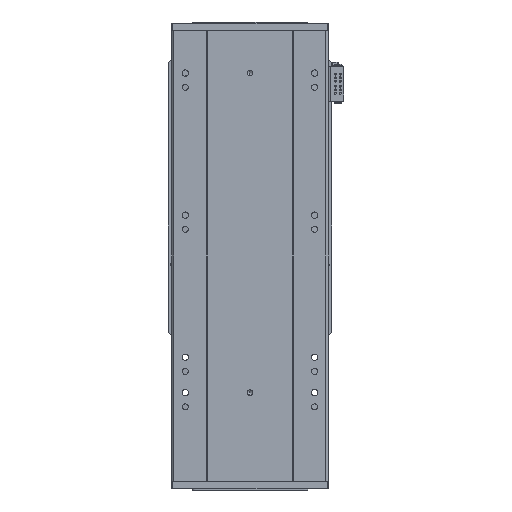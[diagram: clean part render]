
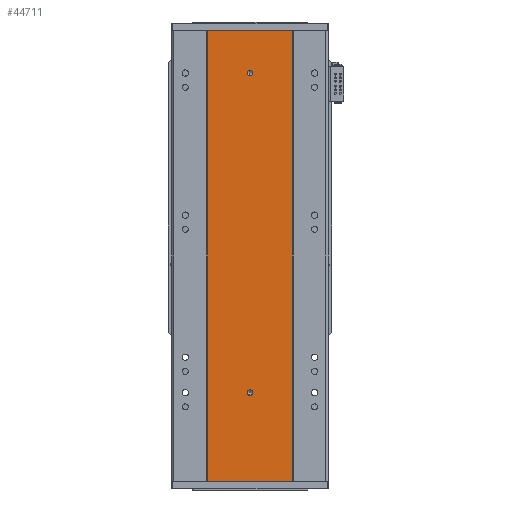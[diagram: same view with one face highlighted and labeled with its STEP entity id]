
A CAD part, front view. The second image highlights one B-rep face of the part: STEP entity #44711.
In plain terms, the highlighted planar face has unit normal (0, -1, 0).
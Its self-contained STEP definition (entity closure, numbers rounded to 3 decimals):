
#407 = CARTESIAN_POINT ( 'NONE',  ( -60., 0., 635. ) ) ;
#1001 = CARTESIAN_POINT ( 'NONE',  ( 0., 0., 575. ) ) ;
#1230 = DIRECTION ( 'NONE',  ( 0., 0., -1. ) ) ;
#1729 = EDGE_CURVE ( 'NONE', #53522, #18051, #33678, .T. ) ;
#3106 = ORIENTED_EDGE ( 'NONE', *, *, #12484, .F. ) ;
#3229 = CARTESIAN_POINT ( 'NONE',  ( 60., 0., 635. ) ) ;
#5102 = CARTESIAN_POINT ( 'NONE',  ( 0., 0., 125. ) ) ;
#5315 = LINE ( 'NONE', #49760, #45857 ) ;
#5802 = CARTESIAN_POINT ( 'NONE',  ( 60., 0., 0. ) ) ;
#6453 = DIRECTION ( 'NONE',  ( 0., -1., 0. ) ) ;
#7175 = CARTESIAN_POINT ( 'NONE',  ( -60., 0., 635. ) ) ;
#8689 = CARTESIAN_POINT ( 'NONE',  ( -60., 0., 0. ) ) ;
#9915 = LINE ( 'NONE', #39621, #14005 ) ;
#10207 = EDGE_CURVE ( 'NONE', #51522, #50047, #9915, .T. ) ;
#10794 = CARTESIAN_POINT ( 'NONE',  ( 0., 0., 129. ) ) ;
#11730 = DIRECTION ( 'NONE',  ( 1., 0., 0. ) ) ;
#12459 = VERTEX_POINT ( 'NONE', #10794 ) ;
#12484 = EDGE_CURVE ( 'NONE', #12459, #21905, #43269, .T. ) ;
#13986 = DIRECTION ( 'NONE',  ( 0., 0., -1. ) ) ;
#14005 = VECTOR ( 'NONE', #1230, 1000. ) ;
#14988 = DIRECTION ( 'NONE',  ( 0., 0., -1. ) ) ;
#15624 = ORIENTED_EDGE ( 'NONE', *, *, #37076, .T. ) ;
#15727 = CIRCLE ( 'NONE', #44607, 4. ) ;
#16221 = AXIS2_PLACEMENT_3D ( 'NONE', #45937, #6453, #50101 ) ;
#17928 = DIRECTION ( 'NONE',  ( 0., -1., 0. ) ) ;
#18051 = VERTEX_POINT ( 'NONE', #30495 ) ;
#18308 = EDGE_LOOP ( 'NONE', ( #23348, #39420 ) ) ;
#21000 = CIRCLE ( 'NONE', #16221, 4. ) ;
#21163 = DIRECTION ( 'NONE',  ( 0., 0., 1. ) ) ;
#21905 = VERTEX_POINT ( 'NONE', #49296 ) ;
#23117 = EDGE_LOOP ( 'NONE', ( #15624, #49214, #32280, #54600 ) ) ;
#23304 = DIRECTION ( 'NONE',  ( 0., -1., 0. ) ) ;
#23348 = ORIENTED_EDGE ( 'NONE', *, *, #31295, .F. ) ;
#23848 = VERTEX_POINT ( 'NONE', #3229 ) ;
#26252 = EDGE_CURVE ( 'NONE', #21905, #12459, #15727, .T. ) ;
#26801 = FACE_BOUND ( 'NONE', #18308, .T. ) ;
#27537 = LINE ( 'NONE', #7175, #28871 ) ;
#28871 = VECTOR ( 'NONE', #11730, 1000. ) ;
#29418 = DIRECTION ( 'NONE',  ( 0., -1., 0. ) ) ;
#29453 = LINE ( 'NONE', #31610, #46353 ) ;
#30495 = CARTESIAN_POINT ( 'NONE',  ( 0., 0., 571. ) ) ;
#31067 = AXIS2_PLACEMENT_3D ( 'NONE', #46224, #29418, #33552 ) ;
#31295 = EDGE_CURVE ( 'NONE', #18051, #53522, #21000, .T. ) ;
#31610 = CARTESIAN_POINT ( 'NONE',  ( 60., 0., 635. ) ) ;
#32197 = FACE_OUTER_BOUND ( 'NONE', #23117, .T. ) ;
#32280 = ORIENTED_EDGE ( 'NONE', *, *, #52490, .F. ) ;
#33523 = FACE_BOUND ( 'NONE', #39929, .T. ) ;
#33552 = DIRECTION ( 'NONE',  ( 0., 0., -1. ) ) ;
#33604 = PLANE ( 'NONE',  #48212 ) ;
#33678 = CIRCLE ( 'NONE', #43633, 4. ) ;
#33927 = VERTEX_POINT ( 'NONE', #5802 ) ;
#36906 = DIRECTION ( 'NONE',  ( 1., 0., 0. ) ) ;
#37076 = EDGE_CURVE ( 'NONE', #50047, #33927, #5315, .T. ) ;
#39073 = EDGE_CURVE ( 'NONE', #23848, #33927, #29453, .T. ) ;
#39420 = ORIENTED_EDGE ( 'NONE', *, *, #1729, .F. ) ;
#39621 = CARTESIAN_POINT ( 'NONE',  ( -60., 0., 635. ) ) ;
#39929 = EDGE_LOOP ( 'NONE', ( #47711, #3106 ) ) ;
#42717 = DIRECTION ( 'NONE',  ( 0., 1., 0. ) ) ;
#43269 = CIRCLE ( 'NONE', #31067, 4. ) ;
#43633 = AXIS2_PLACEMENT_3D ( 'NONE', #1001, #23304, #14988 ) ;
#44607 = AXIS2_PLACEMENT_3D ( 'NONE', #5102, #17928, #13986 ) ;
#44711 = ADVANCED_FACE ( 'NONE', ( #26801, #33523, #32197 ), #33604, .F. ) ;
#45800 = CARTESIAN_POINT ( 'NONE',  ( 0., 0., 579. ) ) ;
#45857 = VECTOR ( 'NONE', #36906, 1000. ) ;
#45937 = CARTESIAN_POINT ( 'NONE',  ( 0., 0., 575. ) ) ;
#46224 = CARTESIAN_POINT ( 'NONE',  ( 0., 0., 125. ) ) ;
#46353 = VECTOR ( 'NONE', #49009, 1000. ) ;
#47711 = ORIENTED_EDGE ( 'NONE', *, *, #26252, .F. ) ;
#48212 = AXIS2_PLACEMENT_3D ( 'NONE', #51183, #42717, #21163 ) ;
#49009 = DIRECTION ( 'NONE',  ( 0., 0., -1. ) ) ;
#49214 = ORIENTED_EDGE ( 'NONE', *, *, #39073, .F. ) ;
#49296 = CARTESIAN_POINT ( 'NONE',  ( 0., 0., 121. ) ) ;
#49760 = CARTESIAN_POINT ( 'NONE',  ( -60., 0., 0. ) ) ;
#50047 = VERTEX_POINT ( 'NONE', #8689 ) ;
#50101 = DIRECTION ( 'NONE',  ( 0., 0., -1. ) ) ;
#51183 = CARTESIAN_POINT ( 'NONE',  ( -60., 0., 635. ) ) ;
#51522 = VERTEX_POINT ( 'NONE', #407 ) ;
#52490 = EDGE_CURVE ( 'NONE', #51522, #23848, #27537, .T. ) ;
#53522 = VERTEX_POINT ( 'NONE', #45800 ) ;
#54600 = ORIENTED_EDGE ( 'NONE', *, *, #10207, .T. ) ;
